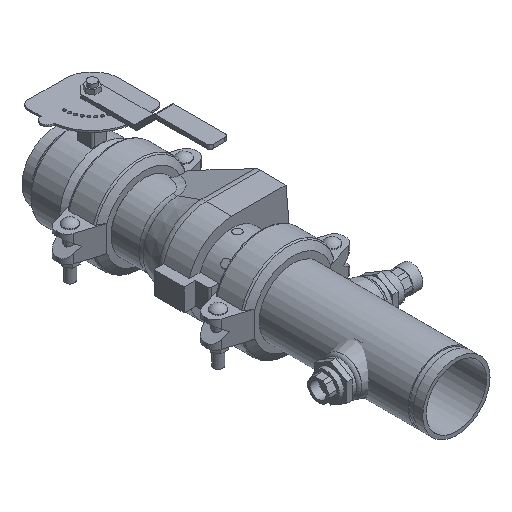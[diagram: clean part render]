
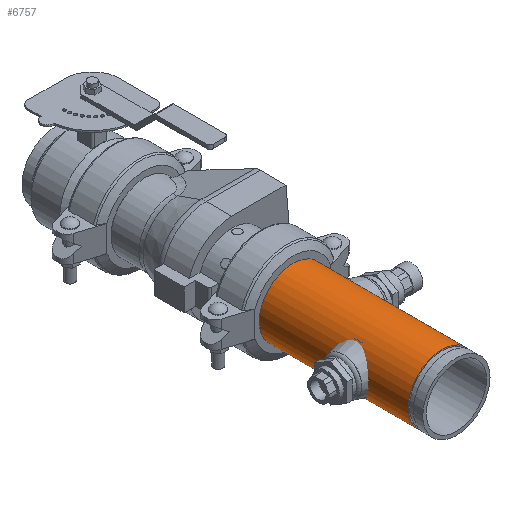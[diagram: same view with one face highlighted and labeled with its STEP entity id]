
A CAD part, isometric view. The second image highlights one B-rep face of the part: STEP entity #6757.
In plain terms, the highlighted cylindrical face has radius 57.15 mm (diameter 114.3 mm), a full revolution.
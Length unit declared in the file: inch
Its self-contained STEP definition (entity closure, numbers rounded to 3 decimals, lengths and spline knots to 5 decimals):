
#150=LINE('',#10215,#673);
#673=VECTOR('',#8114,2.25);
#1196=CYLINDRICAL_SURFACE('',#7302,2.25);
#1404=FACE_OUTER_BOUND('',#1782,.T.);
#1782=EDGE_LOOP('',(#4231,#4232,#4233,#4234,#4235,#4236));
#2232=CIRCLE('',#7300,2.25);
#2233=CIRCLE('',#7301,2.25);
#2234=CIRCLE('',#7303,2.25);
#2235=CIRCLE('',#7304,2.25);
#2610=VERTEX_POINT('',#10206);
#2611=VERTEX_POINT('',#10207);
#2612=VERTEX_POINT('',#10211);
#2613=VERTEX_POINT('',#10212);
#3256=EDGE_CURVE('',#2610,#2611,#2232,.T.);
#3257=EDGE_CURVE('',#2611,#2610,#2233,.T.);
#3258=EDGE_CURVE('',#2612,#2613,#2234,.T.);
#3259=EDGE_CURVE('',#2613,#2612,#2235,.T.);
#3260=EDGE_CURVE('',#2613,#2611,#150,.T.);
#4231=ORIENTED_EDGE('',*,*,#3258,.F.);
#4232=ORIENTED_EDGE('',*,*,#3259,.F.);
#4233=ORIENTED_EDGE('',*,*,#3260,.T.);
#4234=ORIENTED_EDGE('',*,*,#3257,.T.);
#4235=ORIENTED_EDGE('',*,*,#3256,.T.);
#4236=ORIENTED_EDGE('',*,*,#3260,.F.);
#6757=ADVANCED_FACE('',(#1404),#1196,.T.);
#7300=AXIS2_PLACEMENT_3D('',#10208,#8104,#8105);
#7301=AXIS2_PLACEMENT_3D('',#10209,#8106,#8107);
#7302=AXIS2_PLACEMENT_3D('',#10210,#8108,#8109);
#7303=AXIS2_PLACEMENT_3D('',#10213,#8110,#8111);
#7304=AXIS2_PLACEMENT_3D('',#10214,#8112,#8113);
#8104=DIRECTION('center_axis',(1.,0.,0.));
#8105=DIRECTION('ref_axis',(0.,0.,-1.));
#8106=DIRECTION('center_axis',(1.,0.,0.));
#8107=DIRECTION('ref_axis',(0.,0.,-1.));
#8108=DIRECTION('center_axis',(1.,0.,0.));
#8109=DIRECTION('ref_axis',(0.,1.,0.));
#8110=DIRECTION('center_axis',(1.,0.,0.));
#8111=DIRECTION('ref_axis',(0.,0.,-1.));
#8112=DIRECTION('center_axis',(1.,0.,0.));
#8113=DIRECTION('ref_axis',(0.,0.,-1.));
#8114=DIRECTION('',(-1.,0.,0.));
#10206=CARTESIAN_POINT('',(-5.026,2.25,0.));
#10207=CARTESIAN_POINT('',(-5.026,-2.25,0.));
#10208=CARTESIAN_POINT('Origin',(-5.026,0.,0.));
#10209=CARTESIAN_POINT('Origin',(-5.026,0.,0.));
#10210=CARTESIAN_POINT('Origin',(0.,0.,0.));
#10211=CARTESIAN_POINT('',(5.026,2.25,0.));
#10212=CARTESIAN_POINT('',(5.026,-2.25,0.));
#10213=CARTESIAN_POINT('Origin',(5.026,0.,0.));
#10214=CARTESIAN_POINT('Origin',(5.026,0.,0.));
#10215=CARTESIAN_POINT('',(0.,-2.25,0.));
